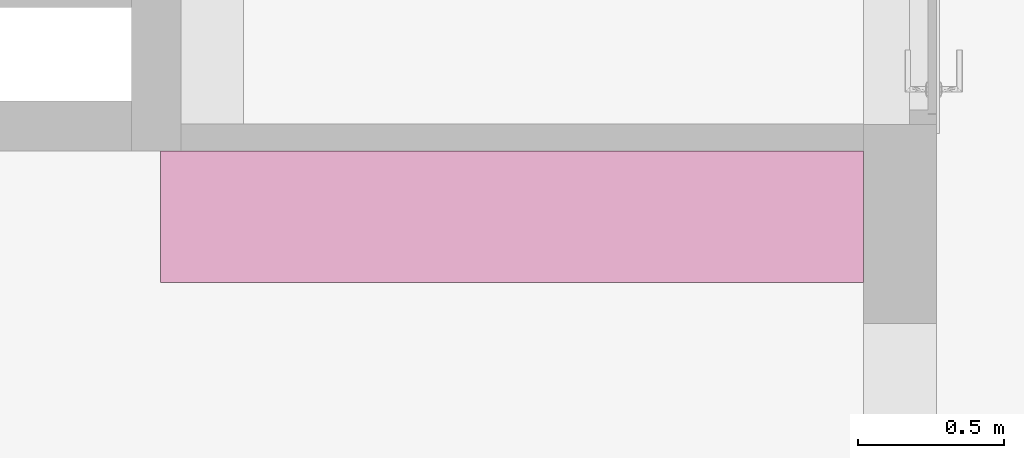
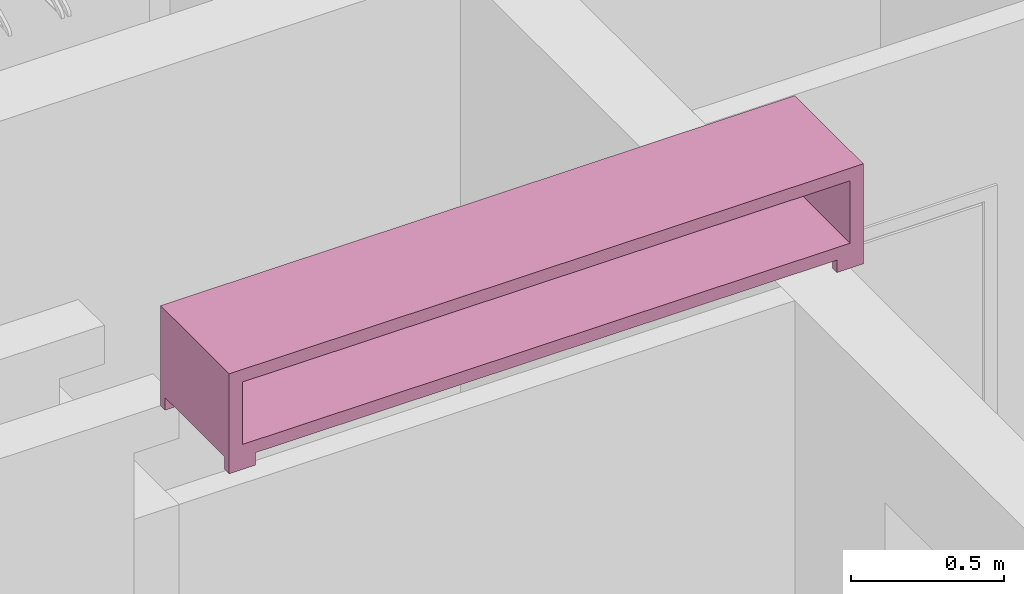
# One storey, part 62 of 125: 1 furnishing.
"""IFC2X3 building model written with IfcOpenShell, lengths in millimetres."""

from ifc_helpers import new_model, entity, si_unit, converted_unit, direction, frame, frame_2d, origin, origin_2d_with_axis, place, context, subcontext, project, spatial, polyline, rectangle, outline, extrude, source, transform, mapped, material, type_object, type_shapes, element, save


model = new_model("IFC2X3")

# Units and contexts
model_context = context("Model", 3, precision=0.01, world=origin(), true_north=direction((6.123233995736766e-17, 1.0)))
plan_context = context("Plan", 3, precision=0.01, world=origin(), true_north=direction((6.123233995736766e-17, 1.0)))
body_context = subcontext(model_context, "Body", "Model", "MODEL_VIEW")
ifc_project = project(units=[si_unit("LENGTHUNIT", "METRE", prefix="MILLI"), converted_unit("PLANEANGLEUNIT", "DEGREE", entity("IfcPlaneAngleMeasure", 0.017453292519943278), si_unit("PLANEANGLEUNIT", "RADIAN"), dimensions=[0, 0, 0, 0, 0, 0, 0]), si_unit("AREAUNIT", "SQUARE_METRE")], contexts=[model_context, plan_context])

# Site, building, storey, space
site_placement = place(None, origin())
site = spatial("IfcSite", under=ifc_project, at=site_placement, Name="Default", CompositionType="ELEMENT")
building_placement = place(site_placement, origin())
building = spatial("IfcBuilding", under=site, at=building_placement, CompositionType="ELEMENT")
storey_placement = place(building_placement, frame((0.0, 0.0, 3125.0)))
storey = spatial("IfcBuildingStorey", under=building, at=storey_placement, Name="2K", CompositionType="ELEMENT", Elevation=3125.0)
space_placement = place(storey_placement, origin())
space = spatial("IfcSpace", under=storey, at=space_placement, Name="2-4.2", CompositionType="ELEMENT", InteriorOrExteriorSpace="INTERNAL")

# Furnishing
ifc_material = material(Name="<Unnamed>")
furniture_type = type_object("IfcFurnitureType", Name="HR_Furniture_TV-stand_Generic_v2016-05-13:Default", AssemblyPlace="NOTDEFINED", material=ifc_material)
shared_shape = source(origin(), body_context, "Body", "SweptSolid", [
    extrude(rectangle(XDim=99.99999999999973, YDim=29.999999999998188, at=origin_2d_with_axis()), frame((1150.0, 15.0, 0.0), z_axis=(0.0, 0.0, 1.0), x_axis=(-1.0, 0.0, 0.0)), (0.0, 0.0, 1.0), 49.99999999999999),
    extrude(rectangle(XDim=30.000000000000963, YDim=99.99999999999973, at=frame_2d((-3.375077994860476e-14, 0.0), x_axis=(1.0, 0.0))), frame((1150.0, 435.0, 0.0), z_axis=(0.0, 0.0, 1.0), x_axis=(0.0, 1.0, 0.0)), (0.0, 0.0, 1.0), 49.99999999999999),
    extrude(rectangle(XDim=30.000000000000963, YDim=99.99999999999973, at=frame_2d((-3.375077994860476e-14, 0.0), x_axis=(1.0, 0.0))), frame((-1150.0, 435.0, 0.0), z_axis=(0.0, 0.0, 1.0), x_axis=(0.0, 1.0, 0.0)), (0.0, 0.0, 1.0), 49.99999999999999),
    extrude(rectangle(XDim=99.99999999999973, YDim=29.999999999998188, at=origin_2d_with_axis()), frame((-1150.0, 15.0, 0.0), z_axis=(0.0, 0.0, 1.0), x_axis=(-1.0, 0.0, 0.0)), (0.0, 0.0, 1.0), 49.99999999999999),
    extrude(outline(polyline([(-175.0, -1200.0), (175.0, -1200.0), (175.0, 1200.0), (-175.0, 1200.0), (-175.0, -1200.0)]), holes=[polyline([(-125.0, -1150.0), (-125.0, 1150.0), (125.0, 1150.0), (125.0, -1150.0), (-125.0, -1150.0)])]), frame((0.0, 0.0, 225.0), z_axis=(0.0, 1.0, 0.0), x_axis=(0.0, 0.0, -1.0)), (0.0, 0.0, 1.0), 449.9999999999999),
])
type_shapes(furniture_type, [shared_shape])
furnishing_placement = place(space_placement, frame((10699.993534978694, 4210.0, 3170.0), z_axis=(0.0, 0.0, 1.0), x_axis=(-1.0, 0.0, 0.0)))
element("IfcFurnishingElement", 1, at=furnishing_placement, inside=space, type_object=furniture_type, material=ifc_material, Name="HR_Furniture_TV-stand_Generic_v2016-05-13:Default", ObjectType="HR_Furniture_TV-stand_Generic_v2016-05-13:Default", context=body_context, shape_type="MappedRepresentation", body=[
    mapped(shared_shape, transform((0.0, 0.0, 0.0), scale=1.0)),
])

save(model, "model.ifc")
